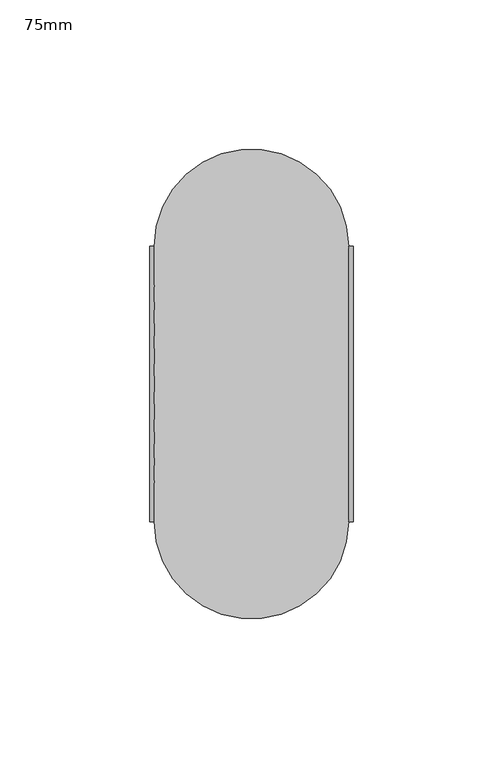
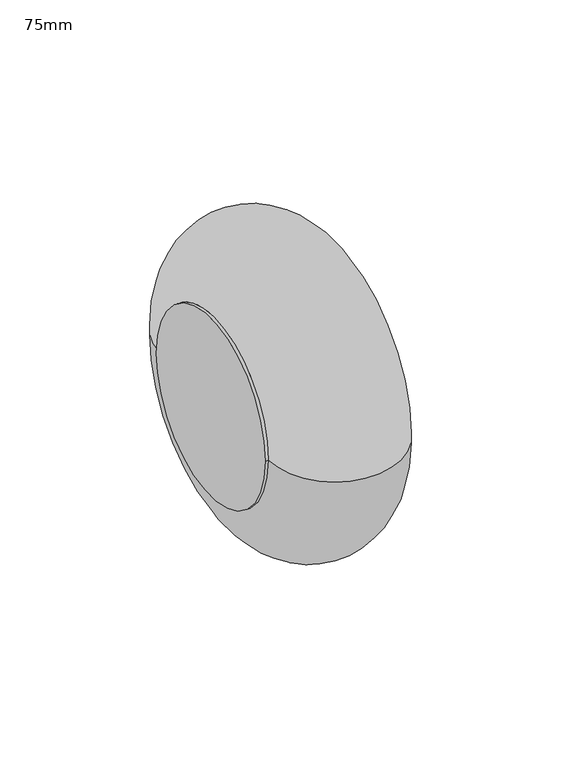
"""IFC4 building model written with IfcOpenShell, lengths in millimetres: pipe fitting geometry, PipeAccessory_HTA_CPVC_LinearExpansionCompensatorPN16 : 75mm."""

from ifc_helpers import new_model, si_unit, point, frame, origin, origin_2d, place, context, project, spatial, circle_curve, ellipse_curve, trimmed, segment, composite_curve, outline, extrude, source, transform, mapped, element, save
from ifc_brep_helpers import plane_surface, revolved_surface, advanced_brep


def pipe_fitting_75mm_432ceb5d(model_context):
    return source(origin(), model_context, "Body", "SolidModel", [
        extrude(outline(composite_curve([segment(trimmed(circle_curve(origin_2d(), 46.0), [point((-46.0, 0.0))], [point((46.0, 0.0))], False, "CARTESIAN"), True, "CONTINUOUS"), segment(trimmed(circle_curve(origin_2d(), 46.0), [point((46.0, 0.0))], [point((-46.0, 0.0))], False, "CARTESIAN"), True, "CONTINUOUS")], self_intersect=False)), frame((32.5, 0.0, 0.0), z_axis=(1.0, 0.0, 0.0), x_axis=(0.0, 1.0, 0.0)), (0.0, 0.0, 1.0), 1.5),
        extrude(outline(composite_curve([segment(trimmed(circle_curve(origin_2d(), 46.0), [point((-46.0, 0.0))], [point((46.0, 0.0))], False, "CARTESIAN"), True, "CONTINUOUS"), segment(trimmed(circle_curve(origin_2d(), 46.0), [point((46.0, 0.0))], [point((-46.0, 0.0))], False, "CARTESIAN"), True, "CONTINUOUS")], self_intersect=False)), frame((-34.0, 0.0, 0.0), z_axis=(1.0, 0.0, 0.0), x_axis=(0.0, 1.0, 0.0)), (0.0, 0.0, 1.0), 1.5),
        advanced_brep(
        [(-32.5, 0.0, 0.0), (-32.5, 46.0, 0.0), (-32.5, -46.0, 0.0), (32.5, -46.0, 0.0), (32.5, 46.0, 0.0), (32.5, 0.0, 0.0)],
        [
            (0, 1),
            (1, 2, circle_curve(frame((-32.5, 0.0, 0.0), z_axis=(-1.0, 0.0, 0.0), x_axis=(0.0, 1.0, 0.0)), 46.0)),
            (2, 0),
            (2, 1, circle_curve(frame((-32.5, 0.0, 0.0), z_axis=(-1.0, 0.0, 0.0), x_axis=(0.0, 1.0, 0.0)), 46.0)),
            (3, 4, circle_curve(frame((32.5, 0.0, 0.0), z_axis=(1.0, 0.0, 0.0), x_axis=(0.0, 1.0, 0.0)), 46.0)),
            (4, 5),
            (5, 3),
            (4, 3, circle_curve(frame((32.5, 0.0, 0.0), z_axis=(1.0, 0.0, 0.0), x_axis=(0.0, 1.0, 0.0)), 46.0)),
            (1, 4, circle_curve(frame((0.0, 46.0, 0.0), z_axis=(0.0, 0.0, -1.0), x_axis=(1.0, 0.0, 0.0)), 32.5)),
            (3, 2, circle_curve(frame((0.0, -46.0, 0.0), z_axis=(0.0, 0.0, -1.0), x_axis=(1.0, 0.0, 0.0)), 32.5)),
        ],
        [
            plane_surface(frame((-32.5, 0.0, 0.0), z_axis=(-1.0, 0.0, 0.0), x_axis=(0.0, 1.0, 0.0))),
            plane_surface(frame((32.5, 0.0, 0.0), z_axis=(1.0, 0.0, 0.0), x_axis=(0.0, 1.0, 0.0))),
            revolved_surface(trimmed(ellipse_curve(frame((0.0, 46.0, 0.0), z_axis=(0.0, 0.0, 1.0), x_axis=(1.0, 0.0, 0.0)), 32.5, 32.5), [point((32.5, 46.0, 0.0))], [point((-32.5, 46.0, 0.0))], True, "CARTESIAN"), (-32.5, 0.0, 0.0), (-1.0, 0.0, 0.0)),
        ],
        [
            (0, [[1, 2, 3]]),
            (0, [[-3, 4, -1]]),
            (1, [[5, 6, 7]]),
            (1, [[8, -7, -6]]),
            (2, [[-2, 9, -5, 10]]),
            (2, [[-4, -10, -8, -9]]),
        ],
    ),
    ])


if __name__ == "__main__":
    model = new_model("IFC4")
    model_context = context("Model", 3, world=origin())
    ifc_project = project(units=[si_unit("LENGTHUNIT", "METRE", prefix="MILLI")], contexts=[model_context])
    site = spatial("IfcSite", under=ifc_project)
    building = spatial("IfcBuilding", under=site)
    placement = place(None, origin())
    pipe_fitting_75mm_shape = pipe_fitting_75mm_432ceb5d(model_context)
    element("IfcPipeFitting", 1, ObjectType="PipeAccessory_HTA_CPVC_LinearExpansionCompensatorPN16 : 75mm", at=placement, inside=building, context=model_context, shape_type="MappedRepresentation", body=[
        mapped(pipe_fitting_75mm_shape, transform((0.0, 0.0, 0.0), x_axis=(1.0, 0.0, 0.0), y_axis=(0.0, 1.0, 0.0), z_axis=(0.0, 0.0, 1.0))),
    ])
    save(model, "model.ifc")
